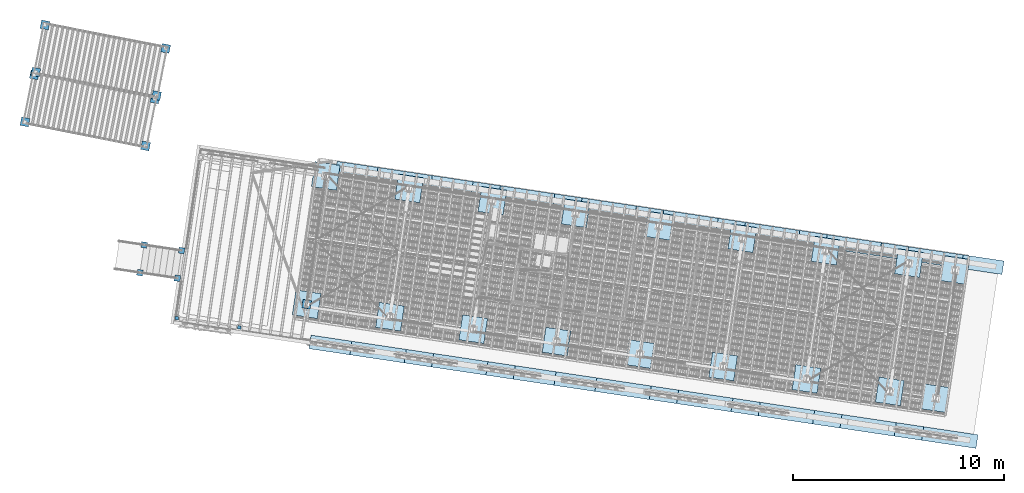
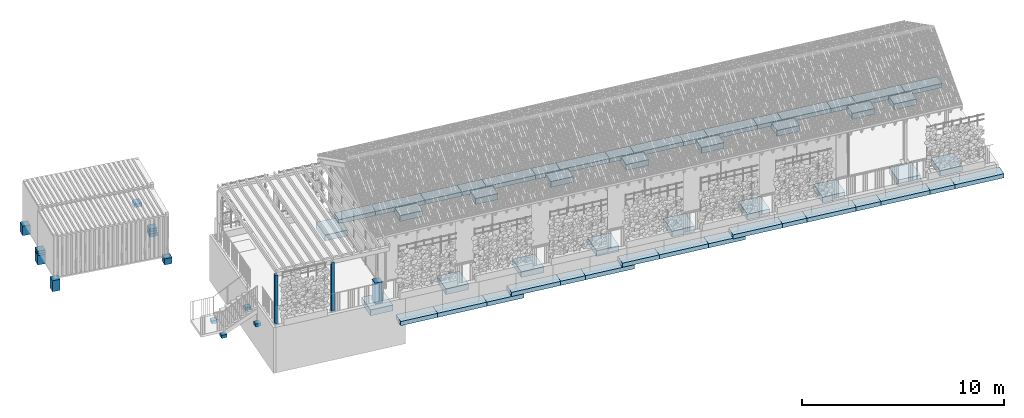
# One storey, part 1 of 128: 62 footings, 3 columns, 5 elements without a shape of their own.
"""IFC4 building model written with IfcOpenShell, lengths in metres."""

from ifc_helpers import new_model, si_unit, direction, frame, origin_with_axes, place, context, subcontext, project, spatial, polyline, rectangle, outline, extrude, material, material_profile, profile_set, profile_usage, type_object, element, aggregate, save


model = new_model("IFC4")

# Units and contexts
model_context = context("Model", 3, precision=1e-05, world=origin_with_axes(), true_north=direction((0.0, 1.0)))
body_context = subcontext(model_context, "Body", "Model", "MODEL_VIEW")
ifc_project = project(units=[si_unit("VOLUMEUNIT", "CUBIC_METRE"), si_unit("LENGTHUNIT", "METRE"), si_unit("AREAUNIT", "SQUARE_METRE")], contexts=[model_context])

# Site, building, storey
site_placement = place(None, origin_with_axes())
site = spatial("IfcSite", under=ifc_project, at=site_placement, Name="Lares · Rua das Mercês · artigo 4771")
building_placement = place(site_placement, frame((15.0, 9.7, 13.9), z_axis=(0.0, 0.0, 1.0), x_axis=(0.989015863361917, -0.147809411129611, 0.0)))
building = spatial("IfcBuilding", under=site, at=building_placement, Name="Casa Sobreposta")
storey_placement = place(building_placement, origin_with_axes())
storey = spatial("IfcBuildingStorey", under=building, at=storey_placement, Name="00 · Habitação e estacionamento", Elevation=13.9)

# Footings
ifc_material_1 = material(Name="Betão armado / Stahlbeton", Category="concrete")
footing_1_placement = place(storey_placement, frame((0.0, 0.0, -1.6), z_axis=(0.0, 0.0, 1.0), x_axis=(1.0, 0.0, 0.0)))
element("IfcFooting", 1, at=footing_1_placement, inside=storey, material=ifc_material_1, Name="Casa térrea · sapata", PredefinedType="PAD_FOOTING", context=body_context, shape_type="SweptSolid", body=[
    extrude(outline(polyline([(0.6, -0.48), (0.6, 0.72), (-0.6, 0.72), (-0.6, -0.48), (0.6, -0.48)])), origin_with_axes(), (0.0, 0.0, 1.0), 0.35),
])
footing_2_placement = place(storey_placement, frame((0.0, 0.0, -1.1), z_axis=(0.0, 0.0, 1.0), x_axis=(1.0, 0.0, 0.0)))
element("IfcFooting", 2, at=footing_2_placement, inside=storey, material=ifc_material_1, Name="Casa térrea · sapata", PredefinedType="PAD_FOOTING", context=body_context, shape_type="SweptSolid", body=[
    extrude(outline(polyline([(0.6, 5.68), (0.6, 6.88), (-0.6, 6.88), (-0.6, 5.68), (0.6, 5.68)])), origin_with_axes(), (0.0, 0.0, 1.0), 0.35),
])
footing_3_placement = place(storey_placement, frame((0.0, 0.0, -1.35), z_axis=(0.0, 0.0, 1.0), x_axis=(1.0, 0.0, 0.0)))
element("IfcFooting", 3, at=footing_3_placement, inside=storey, material=ifc_material_1, Name="Casa térrea · sapata", PredefinedType="PAD_FOOTING", context=body_context, shape_type="SweptSolid", body=[
    extrude(outline(polyline([(4.6, -0.48), (4.6, 0.72), (3.4, 0.72), (3.4, -0.48), (4.6, -0.48)])), origin_with_axes(), (0.0, 0.0, 1.0), 0.35),
])
footing_4_placement = place(storey_placement, frame((0.0, 0.0, -0.95), z_axis=(0.0, 0.0, 1.0), x_axis=(1.0, 0.0, 0.0)))
element("IfcFooting", 4, at=footing_4_placement, inside=storey, material=ifc_material_1, Name="Casa térrea · sapata", PredefinedType="PAD_FOOTING", context=body_context, shape_type="SweptSolid", body=[
    extrude(outline(polyline([(4.6, 5.68), (4.6, 6.88), (3.4, 6.88), (3.4, 5.68), (4.6, 5.68)])), origin_with_axes(), (0.0, 0.0, 1.0), 0.35),
])
footing_5_placement = place(storey_placement, frame((0.0, 0.0, -1.35), z_axis=(0.0, 0.0, 1.0), x_axis=(1.0, 0.0, 0.0)))
element("IfcFooting", 5, at=footing_5_placement, inside=storey, material=ifc_material_1, Name="Casa térrea · sapata", PredefinedType="PAD_FOOTING", context=body_context, shape_type="SweptSolid", body=[
    extrude(outline(polyline([(8.6, -0.48), (8.6, 0.72), (7.4, 0.72), (7.4, -0.48), (8.6, -0.48)])), origin_with_axes(), (0.0, 0.0, 1.0), 0.35),
])
footing_6_placement = place(storey_placement, frame((0.0, 0.0, -0.95), z_axis=(0.0, 0.0, 1.0), x_axis=(1.0, 0.0, 0.0)))
element("IfcFooting", 6, at=footing_6_placement, inside=storey, material=ifc_material_1, Name="Casa térrea · sapata", PredefinedType="PAD_FOOTING", context=body_context, shape_type="SweptSolid", body=[
    extrude(outline(polyline([(8.6, 5.68), (8.6, 6.88), (7.4, 6.88), (7.4, 5.68), (8.6, 5.68)])), origin_with_axes(), (0.0, 0.0, 1.0), 0.35),
])
footing_7_placement = place(storey_placement, frame((0.0, 0.0, -1.1), z_axis=(0.0, 0.0, 1.0), x_axis=(1.0, 0.0, 0.0)))
element("IfcFooting", 7, at=footing_7_placement, inside=storey, material=ifc_material_1, Name="Casa térrea · sapata", PredefinedType="PAD_FOOTING", context=body_context, shape_type="SweptSolid", body=[
    extrude(outline(polyline([(12.6, -0.48), (12.6, 0.72), (11.4, 0.72), (11.4, -0.48), (12.6, -0.48)])), origin_with_axes(), (0.0, 0.0, 1.0), 0.35),
])
footing_8_placement = place(storey_placement, frame((0.0, 0.0, -0.95), z_axis=(0.0, 0.0, 1.0), x_axis=(1.0, 0.0, 0.0)))
element("IfcFooting", 8, at=footing_8_placement, inside=storey, material=ifc_material_1, Name="Casa térrea · sapata", PredefinedType="PAD_FOOTING", context=body_context, shape_type="SweptSolid", body=[
    extrude(outline(polyline([(12.6, 5.68), (12.6, 6.88), (11.4, 6.88), (11.4, 5.68), (12.6, 5.68)])), origin_with_axes(), (0.0, 0.0, 1.0), 0.35),
])
footing_9_placement = place(storey_placement, frame((0.0, 0.0, -0.95), z_axis=(0.0, 0.0, 1.0), x_axis=(1.0, 0.0, 0.0)))
element("IfcFooting", 9, at=footing_9_placement, inside=storey, material=ifc_material_1, Name="Casa térrea · sapata", PredefinedType="PAD_FOOTING", context=body_context, shape_type="SweptSolid", body=[
    extrude(outline(polyline([(16.6, -0.48), (16.6, 0.72), (15.4, 0.72), (15.4, -0.48), (16.6, -0.48)])), origin_with_axes(), (0.0, 0.0, 1.0), 0.35),
])
footing_10_placement = place(storey_placement, frame((0.0, 0.0, -0.95), z_axis=(0.0, 0.0, 1.0), x_axis=(1.0, 0.0, 0.0)))
element("IfcFooting", 10, at=footing_10_placement, inside=storey, material=ifc_material_1, Name="Casa térrea · sapata", PredefinedType="PAD_FOOTING", context=body_context, shape_type="SweptSolid", body=[
    extrude(outline(polyline([(16.6, 5.68), (16.6, 6.88), (15.4, 6.88), (15.4, 5.68), (16.6, 5.68)])), origin_with_axes(), (0.0, 0.0, 1.0), 0.35),
])
footing_11_placement = place(storey_placement, frame((0.0, 0.0, -0.95), z_axis=(0.0, 0.0, 1.0), x_axis=(1.0, 0.0, 0.0)))
element("IfcFooting", 11, at=footing_11_placement, inside=storey, material=ifc_material_1, Name="Casa térrea · sapata", PredefinedType="PAD_FOOTING", context=body_context, shape_type="SweptSolid", body=[
    extrude(outline(polyline([(20.6, -0.48), (20.6, 0.72), (19.4, 0.72), (19.4, -0.48), (20.6, -0.48)])), origin_with_axes(), (0.0, 0.0, 1.0), 0.35),
])
footing_12_placement = place(storey_placement, frame((0.0, 0.0, -0.95), z_axis=(0.0, 0.0, 1.0), x_axis=(1.0, 0.0, 0.0)))
element("IfcFooting", 12, at=footing_12_placement, inside=storey, material=ifc_material_1, Name="Casa térrea · sapata", PredefinedType="PAD_FOOTING", context=body_context, shape_type="SweptSolid", body=[
    extrude(outline(polyline([(20.6, 5.68), (20.6, 6.88), (19.4, 6.88), (19.4, 5.68), (20.6, 5.68)])), origin_with_axes(), (0.0, 0.0, 1.0), 0.35),
])
footing_13_placement = place(storey_placement, frame((0.0, 0.0, -0.95), z_axis=(0.0, 0.0, 1.0), x_axis=(1.0, 0.0, 0.0)))
element("IfcFooting", 13, at=footing_13_placement, inside=storey, material=ifc_material_1, Name="Casa térrea · sapata", PredefinedType="PAD_FOOTING", context=body_context, shape_type="SweptSolid", body=[
    extrude(outline(polyline([(24.6, -0.48), (24.6, 0.72), (23.4, 0.72), (23.4, -0.48), (24.6, -0.48)])), origin_with_axes(), (0.0, 0.0, 1.0), 0.35),
])
footing_14_placement = place(storey_placement, frame((0.0, 0.0, -0.95), z_axis=(0.0, 0.0, 1.0), x_axis=(1.0, 0.0, 0.0)))
element("IfcFooting", 14, at=footing_14_placement, inside=storey, material=ifc_material_1, Name="Casa térrea · sapata", PredefinedType="PAD_FOOTING", context=body_context, shape_type="SweptSolid", body=[
    extrude(outline(polyline([(24.6, 5.68), (24.6, 6.88), (23.4, 6.88), (23.4, 5.68), (24.6, 5.68)])), origin_with_axes(), (0.0, 0.0, 1.0), 0.35),
])
footing_15_placement = place(storey_placement, frame((0.0, 0.0, -0.95), z_axis=(0.0, 0.0, 1.0), x_axis=(1.0, 0.0, 0.0)))
element("IfcFooting", 15, at=footing_15_placement, inside=storey, material=ifc_material_1, Name="Casa térrea · sapata", PredefinedType="PAD_FOOTING", context=body_context, shape_type="SweptSolid", body=[
    extrude(outline(polyline([(28.6, -0.48), (28.6, 0.72), (27.4, 0.72), (27.4, -0.48), (28.6, -0.48)])), origin_with_axes(), (0.0, 0.0, 1.0), 0.35),
])
footing_16_placement = place(storey_placement, frame((0.0, 0.0, -0.95), z_axis=(0.0, 0.0, 1.0), x_axis=(1.0, 0.0, 0.0)))
element("IfcFooting", 16, at=footing_16_placement, inside=storey, material=ifc_material_1, Name="Casa térrea · sapata", PredefinedType="PAD_FOOTING", context=body_context, shape_type="SweptSolid", body=[
    extrude(outline(polyline([(28.6, 5.68), (28.6, 6.88), (27.4, 6.88), (27.4, 5.68), (28.6, 5.68)])), origin_with_axes(), (0.0, 0.0, 1.0), 0.35),
])
footing_17_placement = place(storey_placement, frame((0.0, 0.0, -0.95), z_axis=(0.0, 0.0, 1.0), x_axis=(1.0, 0.0, 0.0)))
element("IfcFooting", 17, at=footing_17_placement, inside=storey, material=ifc_material_1, Name="Casa térrea · sapata", PredefinedType="PAD_FOOTING", context=body_context, shape_type="SweptSolid", body=[
    extrude(outline(polyline([(30.82, -0.48), (30.82, 0.72), (29.62, 0.72), (29.62, -0.48), (30.82, -0.48)])), origin_with_axes(), (0.0, 0.0, 1.0), 0.35),
])
footing_18_placement = place(storey_placement, frame((0.0, 0.0, -0.95), z_axis=(0.0, 0.0, 1.0), x_axis=(1.0, 0.0, 0.0)))
element("IfcFooting", 18, at=footing_18_placement, inside=storey, material=ifc_material_1, Name="Casa térrea · sapata", PredefinedType="PAD_FOOTING", context=body_context, shape_type="SweptSolid", body=[
    extrude(outline(polyline([(30.82, 5.68), (30.82, 6.88), (29.62, 6.88), (29.62, 5.68), (30.82, 5.68)])), origin_with_axes(), (0.0, 0.0, 1.0), 0.35),
])

# Stair, footings
stair_placement = place(storey_placement, origin_with_axes())
stair = element("IfcStair", 19, at=stair_placement, inside=storey, Name="Jardim · escada pela fachada poente", PredefinedType="STRAIGHT_RUN_STAIR")
footing_19_placement = place(stair_placement, frame((0.0, 0.0, -1.29767746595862), z_axis=(0.0, 0.0, 1.0), x_axis=(1.0, 0.0, 0.0)))
footing_19 = element("IfcFooting", 20, at=footing_19_placement, material=ifc_material_1, Name="Jardim · apoio", PredefinedType="PAD_FOOTING", context=body_context, shape_type="SweptSolid", body=[
    extrude(outline(polyline([(-6.11, 0.295), (-6.11, 0.575), (-6.39, 0.575), (-6.39, 0.295), (-6.11, 0.295)])), origin_with_axes(), (0.0, 0.0, 1.0), 0.18),
])
footing_20_placement = place(stair_placement, frame((0.0, 0.0, -1.52), z_axis=(0.0, 0.0, 1.0), x_axis=(1.0, 0.0, 0.0)))
footing_20 = element("IfcFooting", 21, at=footing_20_placement, material=ifc_material_1, Name="Jardim · apoio", PredefinedType="PAD_FOOTING", context=body_context, shape_type="SweptSolid", body=[
    extrude(outline(polyline([(-7.91, 0.295), (-7.91, 0.575), (-8.19, 0.575), (-8.19, 0.295), (-7.91, 0.295)])), origin_with_axes(), (0.0, 0.0, 1.0), 0.18),
])
footing_21_placement = place(stair_placement, frame((0.0, 0.0, -1.18553574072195), z_axis=(0.0, 0.0, 1.0), x_axis=(1.0, 0.0, 0.0)))
footing_21 = element("IfcFooting", 22, at=footing_21_placement, material=ifc_material_1, Name="Jardim · apoio", PredefinedType="PAD_FOOTING", context=body_context, shape_type="SweptSolid", body=[
    extrude(outline(polyline([(-6.11, 1.625), (-6.11, 1.905), (-6.39, 1.905), (-6.39, 1.625), (-6.11, 1.625)])), origin_with_axes(), (0.0, 0.0, 1.0), 0.18),
])
footing_22_placement = place(stair_placement, frame((0.0, 0.0, -1.52), z_axis=(0.0, 0.0, 1.0), x_axis=(1.0, 0.0, 0.0)))
footing_22 = element("IfcFooting", 23, at=footing_22_placement, material=ifc_material_1, Name="Jardim · apoio", PredefinedType="PAD_FOOTING", context=body_context, shape_type="SweptSolid", body=[
    extrude(outline(polyline([(-7.91, 1.625), (-7.91, 1.905), (-8.19, 1.905), (-8.19, 1.625), (-7.91, 1.625)])), origin_with_axes(), (0.0, 0.0, 1.0), 0.18),
])
aggregate(stair, [footing_19, footing_20, footing_21, footing_22])

# Assembly, footings
assembly_1_placement = place(storey_placement, origin_with_axes())
assembly_1 = element("IfcElementAssembly", 24, at=assembly_1_placement, inside=storey, Name="Pódio · terraço, casa térrea e cisterna", ObjectType="CISTERN_PODIUM", PredefinedType="USERDEFINED")
footing_23_placement = place(assembly_1_placement, frame((0.0, 0.0, -1.5), z_axis=(0.0, 0.0, 1.0), x_axis=(1.0, 0.0, 0.0)))
footing_23 = element("IfcFooting", 25, at=footing_23_placement, material=ifc_material_1, Name="Pódio · fundação sul", PredefinedType="STRIP_FOOTING", context=body_context, shape_type="SweptSolid", body=[
    extrude(outline(polyline([(2.7109375, -1.3), (3.0359375, -1.3), (3.0359375, -1.95), (0.75, -1.95), (0.425, -1.95), (0.425, -1.3), (2.7109375, -1.3)])), origin_with_axes(), (0.0, 0.0, 1.0), 0.25),
])
footing_24_placement = place(assembly_1_placement, frame((0.0, 0.0, -1.5), z_axis=(0.0, 0.0, 1.0), x_axis=(1.0, 0.0, 0.0)))
footing_24 = element("IfcFooting", 26, at=footing_24_placement, material=ifc_material_1, Name="Pódio · fundação sul", PredefinedType="STRIP_FOOTING", context=body_context, shape_type="SweptSolid", body=[
    extrude(outline(polyline([(4.671875, -1.3), (4.996875, -1.3), (4.996875, -1.95), (2.7109375, -1.95), (2.3859375, -1.95), (2.3859375, -1.3), (4.671875, -1.3)])), origin_with_axes(), (0.0, 0.0, 1.0), 0.25),
])
footing_25_placement = place(assembly_1_placement, frame((0.0, 0.0, -1.5), z_axis=(0.0, 0.0, 1.0), x_axis=(1.0, 0.0, 0.0)))
footing_25 = element("IfcFooting", 27, at=footing_25_placement, material=ifc_material_1, Name="Pódio · fundação sul", PredefinedType="STRIP_FOOTING", context=body_context, shape_type="SweptSolid", body=[
    extrude(outline(polyline([(6.6328125, -1.3), (6.9578125, -1.3), (6.9578125, -1.95), (4.671875, -1.95), (4.346875, -1.95), (4.346875, -1.3), (6.6328125, -1.3)])), origin_with_axes(), (0.0, 0.0, 1.0), 0.25),
])
footing_26_placement = place(assembly_1_placement, frame((0.0, 0.0, -1.25), z_axis=(0.0, 0.0, 1.0), x_axis=(1.0, 0.0, 0.0)))
footing_26 = element("IfcFooting", 28, at=footing_26_placement, material=ifc_material_1, Name="Pódio · fundação sul", PredefinedType="STRIP_FOOTING", context=body_context, shape_type="SweptSolid", body=[
    extrude(outline(polyline([(8.59375, -1.3), (8.91875, -1.3), (8.91875, -1.95), (6.6328125, -1.95), (6.3078125, -1.95), (6.3078125, -1.3), (8.59375, -1.3)])), origin_with_axes(), (0.0, 0.0, 1.0), 0.25),
])
footing_27_placement = place(assembly_1_placement, frame((0.0, 0.0, -1.25), z_axis=(0.0, 0.0, 1.0), x_axis=(1.0, 0.0, 0.0)))
footing_27 = element("IfcFooting", 29, at=footing_27_placement, material=ifc_material_1, Name="Pódio · fundação sul", PredefinedType="STRIP_FOOTING", context=body_context, shape_type="SweptSolid", body=[
    extrude(outline(polyline([(10.5546875, -1.3), (10.8796875, -1.3), (10.8796875, -1.95), (8.59375, -1.95), (8.26875, -1.95), (8.26875, -1.3), (10.5546875, -1.3)])), origin_with_axes(), (0.0, 0.0, 1.0), 0.25),
])
footing_28_placement = place(assembly_1_placement, frame((0.0, 0.0, -1.25), z_axis=(0.0, 0.0, 1.0), x_axis=(1.0, 0.0, 0.0)))
footing_28 = element("IfcFooting", 30, at=footing_28_placement, material=ifc_material_1, Name="Pódio · fundação sul", PredefinedType="STRIP_FOOTING", context=body_context, shape_type="SweptSolid", body=[
    extrude(outline(polyline([(12.515625, -1.3), (12.840625, -1.3), (12.840625, -1.95), (10.5546875, -1.95), (10.2296875, -1.95), (10.2296875, -1.3), (12.515625, -1.3)])), origin_with_axes(), (0.0, 0.0, 1.0), 0.25),
])
footing_29_placement = place(assembly_1_placement, frame((0.0, 0.0, -1.0), z_axis=(0.0, 0.0, 1.0), x_axis=(1.0, 0.0, 0.0)))
footing_29 = element("IfcFooting", 31, at=footing_29_placement, material=ifc_material_1, Name="Pódio · fundação sul", PredefinedType="STRIP_FOOTING", context=body_context, shape_type="SweptSolid", body=[
    extrude(outline(polyline([(14.4765625, -1.3), (14.8015625, -1.3), (14.8015625, -1.95), (12.515625, -1.95), (12.190625, -1.95), (12.190625, -1.3), (14.4765625, -1.3)])), origin_with_axes(), (0.0, 0.0, 1.0), 0.25),
])
footing_30_placement = place(assembly_1_placement, frame((0.0, 0.0, -1.0), z_axis=(0.0, 0.0, 1.0), x_axis=(1.0, 0.0, 0.0)))
footing_30 = element("IfcFooting", 32, at=footing_30_placement, material=ifc_material_1, Name="Pódio · fundação sul", PredefinedType="STRIP_FOOTING", context=body_context, shape_type="SweptSolid", body=[
    extrude(outline(polyline([(16.4375, -1.3), (16.7625, -1.3), (16.7625, -1.95), (14.4765625, -1.95), (14.1515625, -1.95), (14.1515625, -1.3), (16.4375, -1.3)])), origin_with_axes(), (0.0, 0.0, 1.0), 0.25),
])
footing_31_placement = place(assembly_1_placement, frame((0.0, 0.0, -1.0), z_axis=(0.0, 0.0, 1.0), x_axis=(1.0, 0.0, 0.0)))
footing_31 = element("IfcFooting", 33, at=footing_31_placement, material=ifc_material_1, Name="Pódio · fundação sul", PredefinedType="STRIP_FOOTING", context=body_context, shape_type="SweptSolid", body=[
    extrude(outline(polyline([(18.3984375, -1.3), (18.7234375, -1.3), (18.7234375, -1.95), (16.4375, -1.95), (16.1125, -1.95), (16.1125, -1.3), (18.3984375, -1.3)])), origin_with_axes(), (0.0, 0.0, 1.0), 0.25),
])
footing_32_placement = place(assembly_1_placement, frame((0.0, 0.0, -0.8), z_axis=(0.0, 0.0, 1.0), x_axis=(1.0, 0.0, 0.0)))
footing_32 = element("IfcFooting", 34, at=footing_32_placement, material=ifc_material_1, Name="Pódio · fundação sul", PredefinedType="STRIP_FOOTING", context=body_context, shape_type="SweptSolid", body=[
    extrude(outline(polyline([(20.359375, -1.3), (20.684375, -1.3), (20.684375, -1.95), (18.3984375, -1.95), (18.0734375, -1.95), (18.0734375, -1.3), (20.359375, -1.3)])), origin_with_axes(), (0.0, 0.0, 1.0), 0.25),
])
footing_33_placement = place(assembly_1_placement, frame((0.0, 0.0, -0.8), z_axis=(0.0, 0.0, 1.0), x_axis=(1.0, 0.0, 0.0)))
footing_33 = element("IfcFooting", 35, at=footing_33_placement, material=ifc_material_1, Name="Pódio · fundação sul", PredefinedType="STRIP_FOOTING", context=body_context, shape_type="SweptSolid", body=[
    extrude(outline(polyline([(22.3203125, -1.3), (22.6453125, -1.3), (22.6453125, -1.95), (20.359375, -1.95), (20.034375, -1.95), (20.034375, -1.3), (22.3203125, -1.3)])), origin_with_axes(), (0.0, 0.0, 1.0), 0.25),
])
footing_34_placement = place(assembly_1_placement, frame((0.0, 0.0, -0.8), z_axis=(0.0, 0.0, 1.0), x_axis=(1.0, 0.0, 0.0)))
footing_34 = element("IfcFooting", 36, at=footing_34_placement, material=ifc_material_1, Name="Pódio · fundação sul", PredefinedType="STRIP_FOOTING", context=body_context, shape_type="SweptSolid", body=[
    extrude(outline(polyline([(24.28125, -1.3), (24.60625, -1.3), (24.60625, -1.95), (22.3203125, -1.95), (21.9953125, -1.95), (21.9953125, -1.3), (24.28125, -1.3)])), origin_with_axes(), (0.0, 0.0, 1.0), 0.25),
])
footing_35_placement = place(assembly_1_placement, frame((0.0, 0.0, -0.8), z_axis=(0.0, 0.0, 1.0), x_axis=(1.0, 0.0, 0.0)))
footing_35 = element("IfcFooting", 37, at=footing_35_placement, material=ifc_material_1, Name="Pódio · fundação sul", PredefinedType="STRIP_FOOTING", context=body_context, shape_type="SweptSolid", body=[
    extrude(outline(polyline([(26.2421875, -1.3), (26.5671875, -1.3), (26.5671875, -1.95), (24.28125, -1.95), (23.95625, -1.95), (23.95625, -1.3), (26.2421875, -1.3)])), origin_with_axes(), (0.0, 0.0, 1.0), 0.25),
])
footing_36_placement = place(assembly_1_placement, frame((0.0, 0.0, -0.8), z_axis=(0.0, 0.0, 1.0), x_axis=(1.0, 0.0, 0.0)))
footing_36 = element("IfcFooting", 38, at=footing_36_placement, material=ifc_material_1, Name="Pódio · fundação sul", PredefinedType="STRIP_FOOTING", context=body_context, shape_type="SweptSolid", body=[
    extrude(outline(polyline([(28.203125, -1.3), (28.528125, -1.3), (28.528125, -1.95), (26.2421875, -1.95), (25.9171875, -1.95), (25.9171875, -1.3), (28.203125, -1.3)])), origin_with_axes(), (0.0, 0.0, 1.0), 0.25),
])
footing_37_placement = place(assembly_1_placement, frame((0.0, 0.0, -0.8), z_axis=(0.0, 0.0, 1.0), x_axis=(1.0, 0.0, 0.0)))
footing_37 = element("IfcFooting", 39, at=footing_37_placement, material=ifc_material_1, Name="Pódio · fundação sul", PredefinedType="STRIP_FOOTING", context=body_context, shape_type="SweptSolid", body=[
    extrude(outline(polyline([(30.1640625, -1.3), (30.4890625, -1.3), (30.4890625, -1.95), (28.203125, -1.95), (27.878125, -1.95), (27.878125, -1.3), (30.1640625, -1.3)])), origin_with_axes(), (0.0, 0.0, 1.0), 0.25),
])
footing_38_placement = place(assembly_1_placement, frame((0.0, 0.0, -0.8), z_axis=(0.0, 0.0, 1.0), x_axis=(1.0, 0.0, 0.0)))
footing_38 = element("IfcFooting", 40, at=footing_38_placement, material=ifc_material_1, Name="Pódio · fundação sul", PredefinedType="STRIP_FOOTING", context=body_context, shape_type="SweptSolid", body=[
    extrude(outline(polyline([(32.125, -1.3), (32.45, -1.3), (32.45, -1.95), (30.1640625, -1.95), (29.8390625, -1.95), (29.8390625, -1.3), (32.125, -1.3)])), origin_with_axes(), (0.0, 0.0, 1.0), 0.25),
])
footing_39_placement = place(assembly_1_placement, frame((0.0, 0.0, -0.8), z_axis=(0.0, 0.0, 1.0), x_axis=(1.0, 0.0, 0.0)))
footing_39 = element("IfcFooting", 41, at=footing_39_placement, material=ifc_material_1, Name="Pódio · fundação norte", PredefinedType="STRIP_FOOTING", context=body_context, shape_type="SweptSolid", body=[
    extrude(outline(polyline([(2.7109375, 7.05), (3.0359375, 7.05), (3.0359375, 6.4), (0.75, 6.4), (0.425, 6.4), (0.425, 7.05), (2.7109375, 7.05)])), origin_with_axes(), (0.0, 0.0, 1.0), 0.25),
])
footing_40_placement = place(assembly_1_placement, frame((0.0, 0.0, -0.8), z_axis=(0.0, 0.0, 1.0), x_axis=(1.0, 0.0, 0.0)))
footing_40 = element("IfcFooting", 42, at=footing_40_placement, material=ifc_material_1, Name="Pódio · fundação norte", PredefinedType="STRIP_FOOTING", context=body_context, shape_type="SweptSolid", body=[
    extrude(outline(polyline([(4.671875, 7.05), (4.996875, 7.05), (4.996875, 6.4), (2.7109375, 6.4), (2.3859375, 6.4), (2.3859375, 7.05), (4.671875, 7.05)])), origin_with_axes(), (0.0, 0.0, 1.0), 0.25),
])
footing_41_placement = place(assembly_1_placement, frame((0.0, 0.0, -0.8), z_axis=(0.0, 0.0, 1.0), x_axis=(1.0, 0.0, 0.0)))
footing_41 = element("IfcFooting", 43, at=footing_41_placement, material=ifc_material_1, Name="Pódio · fundação norte", PredefinedType="STRIP_FOOTING", context=body_context, shape_type="SweptSolid", body=[
    extrude(outline(polyline([(6.6328125, 7.05), (6.9578125, 7.05), (6.9578125, 6.4), (4.671875, 6.4), (4.346875, 6.4), (4.346875, 7.05), (6.6328125, 7.05)])), origin_with_axes(), (0.0, 0.0, 1.0), 0.25),
])
footing_42_placement = place(assembly_1_placement, frame((0.0, 0.0, -0.8), z_axis=(0.0, 0.0, 1.0), x_axis=(1.0, 0.0, 0.0)))
footing_42 = element("IfcFooting", 44, at=footing_42_placement, material=ifc_material_1, Name="Pódio · fundação norte", PredefinedType="STRIP_FOOTING", context=body_context, shape_type="SweptSolid", body=[
    extrude(outline(polyline([(8.59375, 7.05), (8.91875, 7.05), (8.91875, 6.4), (6.6328125, 6.4), (6.3078125, 6.4), (6.3078125, 7.05), (8.59375, 7.05)])), origin_with_axes(), (0.0, 0.0, 1.0), 0.25),
])
footing_43_placement = place(assembly_1_placement, frame((0.0, 0.0, -0.8), z_axis=(0.0, 0.0, 1.0), x_axis=(1.0, 0.0, 0.0)))
footing_43 = element("IfcFooting", 45, at=footing_43_placement, material=ifc_material_1, Name="Pódio · fundação norte", PredefinedType="STRIP_FOOTING", context=body_context, shape_type="SweptSolid", body=[
    extrude(outline(polyline([(10.5546875, 7.05), (10.8796875, 7.05), (10.8796875, 6.4), (8.59375, 6.4), (8.26875, 6.4), (8.26875, 7.05), (10.5546875, 7.05)])), origin_with_axes(), (0.0, 0.0, 1.0), 0.25),
])
footing_44_placement = place(assembly_1_placement, frame((0.0, 0.0, -0.8), z_axis=(0.0, 0.0, 1.0), x_axis=(1.0, 0.0, 0.0)))
footing_44 = element("IfcFooting", 46, at=footing_44_placement, material=ifc_material_1, Name="Pódio · fundação norte", PredefinedType="STRIP_FOOTING", context=body_context, shape_type="SweptSolid", body=[
    extrude(outline(polyline([(12.515625, 7.05), (12.840625, 7.05), (12.840625, 6.4), (10.5546875, 6.4), (10.2296875, 6.4), (10.2296875, 7.05), (12.515625, 7.05)])), origin_with_axes(), (0.0, 0.0, 1.0), 0.25),
])
footing_45_placement = place(assembly_1_placement, frame((0.0, 0.0, -0.8), z_axis=(0.0, 0.0, 1.0), x_axis=(1.0, 0.0, 0.0)))
footing_45 = element("IfcFooting", 47, at=footing_45_placement, material=ifc_material_1, Name="Pódio · fundação norte", PredefinedType="STRIP_FOOTING", context=body_context, shape_type="SweptSolid", body=[
    extrude(outline(polyline([(14.4765625, 7.05), (14.8015625, 7.05), (14.8015625, 6.4), (12.515625, 6.4), (12.190625, 6.4), (12.190625, 7.05), (14.4765625, 7.05)])), origin_with_axes(), (0.0, 0.0, 1.0), 0.25),
])
footing_46_placement = place(assembly_1_placement, frame((0.0, 0.0, -0.8), z_axis=(0.0, 0.0, 1.0), x_axis=(1.0, 0.0, 0.0)))
footing_46 = element("IfcFooting", 48, at=footing_46_placement, material=ifc_material_1, Name="Pódio · fundação norte", PredefinedType="STRIP_FOOTING", context=body_context, shape_type="SweptSolid", body=[
    extrude(outline(polyline([(16.4375, 7.05), (16.7625, 7.05), (16.7625, 6.4), (14.4765625, 6.4), (14.1515625, 6.4), (14.1515625, 7.05), (16.4375, 7.05)])), origin_with_axes(), (0.0, 0.0, 1.0), 0.25),
])
footing_47_placement = place(assembly_1_placement, frame((0.0, 0.0, -0.8), z_axis=(0.0, 0.0, 1.0), x_axis=(1.0, 0.0, 0.0)))
footing_47 = element("IfcFooting", 49, at=footing_47_placement, material=ifc_material_1, Name="Pódio · fundação norte", PredefinedType="STRIP_FOOTING", context=body_context, shape_type="SweptSolid", body=[
    extrude(outline(polyline([(18.3984375, 7.05), (18.7234375, 7.05), (18.7234375, 6.4), (16.4375, 6.4), (16.1125, 6.4), (16.1125, 7.05), (18.3984375, 7.05)])), origin_with_axes(), (0.0, 0.0, 1.0), 0.25),
])
footing_48_placement = place(assembly_1_placement, frame((0.0, 0.0, -0.8), z_axis=(0.0, 0.0, 1.0), x_axis=(1.0, 0.0, 0.0)))
footing_48 = element("IfcFooting", 50, at=footing_48_placement, material=ifc_material_1, Name="Pódio · fundação norte", PredefinedType="STRIP_FOOTING", context=body_context, shape_type="SweptSolid", body=[
    extrude(outline(polyline([(20.359375, 7.05), (20.684375, 7.05), (20.684375, 6.4), (18.3984375, 6.4), (18.0734375, 6.4), (18.0734375, 7.05), (20.359375, 7.05)])), origin_with_axes(), (0.0, 0.0, 1.0), 0.25),
])
footing_49_placement = place(assembly_1_placement, frame((0.0, 0.0, -0.8), z_axis=(0.0, 0.0, 1.0), x_axis=(1.0, 0.0, 0.0)))
footing_49 = element("IfcFooting", 51, at=footing_49_placement, material=ifc_material_1, Name="Pódio · fundação norte", PredefinedType="STRIP_FOOTING", context=body_context, shape_type="SweptSolid", body=[
    extrude(outline(polyline([(22.3203125, 7.05), (22.6453125, 7.05), (22.6453125, 6.4), (20.359375, 6.4), (20.034375, 6.4), (20.034375, 7.05), (22.3203125, 7.05)])), origin_with_axes(), (0.0, 0.0, 1.0), 0.25),
])
footing_50_placement = place(assembly_1_placement, frame((0.0, 0.0, -0.8), z_axis=(0.0, 0.0, 1.0), x_axis=(1.0, 0.0, 0.0)))
footing_50 = element("IfcFooting", 52, at=footing_50_placement, material=ifc_material_1, Name="Pódio · fundação norte", PredefinedType="STRIP_FOOTING", context=body_context, shape_type="SweptSolid", body=[
    extrude(outline(polyline([(24.28125, 7.05), (24.60625, 7.05), (24.60625, 6.4), (22.3203125, 6.4), (21.9953125, 6.4), (21.9953125, 7.05), (24.28125, 7.05)])), origin_with_axes(), (0.0, 0.0, 1.0), 0.25),
])
footing_51_placement = place(assembly_1_placement, frame((0.0, 0.0, -0.8), z_axis=(0.0, 0.0, 1.0), x_axis=(1.0, 0.0, 0.0)))
footing_51 = element("IfcFooting", 53, at=footing_51_placement, material=ifc_material_1, Name="Pódio · fundação norte", PredefinedType="STRIP_FOOTING", context=body_context, shape_type="SweptSolid", body=[
    extrude(outline(polyline([(26.2421875, 7.05), (26.5671875, 7.05), (26.5671875, 6.4), (24.28125, 6.4), (23.95625, 6.4), (23.95625, 7.05), (26.2421875, 7.05)])), origin_with_axes(), (0.0, 0.0, 1.0), 0.25),
])
footing_52_placement = place(assembly_1_placement, frame((0.0, 0.0, -0.8), z_axis=(0.0, 0.0, 1.0), x_axis=(1.0, 0.0, 0.0)))
footing_52 = element("IfcFooting", 54, at=footing_52_placement, material=ifc_material_1, Name="Pódio · fundação norte", PredefinedType="STRIP_FOOTING", context=body_context, shape_type="SweptSolid", body=[
    extrude(outline(polyline([(28.203125, 7.05), (28.528125, 7.05), (28.528125, 6.4), (26.2421875, 6.4), (25.9171875, 6.4), (25.9171875, 7.05), (28.203125, 7.05)])), origin_with_axes(), (0.0, 0.0, 1.0), 0.25),
])
footing_53_placement = place(assembly_1_placement, frame((0.0, 0.0, -0.8), z_axis=(0.0, 0.0, 1.0), x_axis=(1.0, 0.0, 0.0)))
footing_53 = element("IfcFooting", 55, at=footing_53_placement, material=ifc_material_1, Name="Pódio · fundação norte", PredefinedType="STRIP_FOOTING", context=body_context, shape_type="SweptSolid", body=[
    extrude(outline(polyline([(30.1640625, 7.05), (30.4890625, 7.05), (30.4890625, 6.4), (28.203125, 6.4), (27.878125, 6.4), (27.878125, 7.05), (30.1640625, 7.05)])), origin_with_axes(), (0.0, 0.0, 1.0), 0.25),
])
footing_54_placement = place(assembly_1_placement, frame((0.0, 0.0, -0.8), z_axis=(0.0, 0.0, 1.0), x_axis=(1.0, 0.0, 0.0)))
footing_54 = element("IfcFooting", 56, at=footing_54_placement, material=ifc_material_1, Name="Pódio · fundação norte", PredefinedType="STRIP_FOOTING", context=body_context, shape_type="SweptSolid", body=[
    extrude(outline(polyline([(32.125, 7.05), (32.45, 7.05), (32.45, 6.4), (30.1640625, 6.4), (29.8390625, 6.4), (29.8390625, 7.05), (32.125, 7.05)])), origin_with_axes(), (0.0, 0.0, 1.0), 0.25),
])
aggregate(assembly_1, [footing_23, footing_24, footing_25, footing_26, footing_27, footing_28, footing_29, footing_30, footing_31, footing_32, footing_33, footing_34, footing_35, footing_36, footing_37, footing_38, footing_39, footing_40, footing_41, footing_42, footing_43, footing_44, footing_45, footing_46, footing_47, footing_48, footing_49, footing_50, footing_51, footing_52, footing_53, footing_54])

assembly_2_placement = place(storey_placement, frame((-14.4335953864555, 9.04888612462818, 0.0), z_axis=(0.0, 0.0, 1.0), x_axis=(0.999032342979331, -0.0439815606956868, 0.0)))
assembly_2 = element("IfcElementAssembly", 57, at=assembly_2_placement, inside=storey, Name="Contentor existente 1 · 6 m", ObjectType="EXISTING_SHIPPING_CONTAINER", PredefinedType="USERDEFINED")
footing_55_placement = place(assembly_2_placement, frame((0.0, 0.0, -0.973680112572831), z_axis=(0.0, 0.0, 1.0), x_axis=(1.0, 0.0, 0.0)))
footing_55 = element("IfcFooting", 58, at=footing_55_placement, material=ifc_material_1, Name="Contentor · apoio existente indicativo", PredefinedType="PAD_FOOTING", context=body_context, shape_type="SweptSolid", body=[
    extrude(outline(polyline([(0.28, -0.12), (0.28, 0.28), (-0.12, 0.28), (-0.12, -0.12), (0.28, -0.12)])), origin_with_axes(), (0.0, 0.0, 1.0), 0.710538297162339),
])
footing_56_placement = place(assembly_2_placement, frame((0.0, 0.0, -0.831266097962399), z_axis=(0.0, 0.0, 1.0), x_axis=(1.0, 0.0, 0.0)))
footing_56 = element("IfcFooting", 59, at=footing_56_placement, material=ifc_material_1, Name="Contentor · apoio existente indicativo", PredefinedType="PAD_FOOTING", context=body_context, shape_type="SweptSolid", body=[
    extrude(outline(polyline([(0.28, 2.16), (0.28, 2.56), (-0.12, 2.56), (-0.12, 2.16), (0.28, 2.16)])), origin_with_axes(), (0.0, 0.0, 1.0), 0.568124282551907),
])
footing_57_placement = place(assembly_2_placement, frame((0.0, 0.0, -0.615488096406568), z_axis=(0.0, 0.0, 1.0), x_axis=(1.0, 0.0, 0.0)))
footing_57 = element("IfcFooting", 60, at=footing_57_placement, material=ifc_material_1, Name="Contentor · apoio existente indicativo", PredefinedType="PAD_FOOTING", context=body_context, shape_type="SweptSolid", body=[
    extrude(outline(polyline([(6.12, -0.12), (6.12, 0.28), (5.72, 0.28), (5.72, -0.12), (6.12, -0.12)])), origin_with_axes(), (0.0, 0.0, 1.0), 0.352346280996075),
])
footing_58_placement = place(assembly_2_placement, frame((0.0, 0.0, -0.472983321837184), z_axis=(0.0, 0.0, 1.0), x_axis=(1.0, 0.0, 0.0)))
footing_58 = element("IfcFooting", 61, at=footing_58_placement, material=ifc_material_1, Name="Contentor · apoio existente indicativo", PredefinedType="PAD_FOOTING", context=body_context, shape_type="SweptSolid", body=[
    extrude(outline(polyline([(6.12, 2.16), (6.12, 2.56), (5.72, 2.56), (5.72, 2.16), (6.12, 2.16)])), origin_with_axes(), (0.0, 0.0, 1.0), 0.209841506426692),
])
aggregate(assembly_2, [footing_55, footing_56, footing_57, footing_58])

assembly_3_placement = place(storey_placement, frame((-14.5932944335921, 6.63122214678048, 0.0), z_axis=(0.0, 0.0, 1.0), x_axis=(0.998832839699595, -0.0483007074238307, 0.0)))
assembly_3 = element("IfcElementAssembly", 62, at=assembly_3_placement, inside=storey, Name="Contentor existente 2 · 6 m", ObjectType="EXISTING_SHIPPING_CONTAINER", PredefinedType="USERDEFINED")
footing_59_placement = place(assembly_3_placement, frame((0.0, 0.0, -1.08544963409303), z_axis=(0.0, 0.0, 1.0), x_axis=(1.0, 0.0, 0.0)))
footing_59 = element("IfcFooting", 63, at=footing_59_placement, material=ifc_material_1, Name="Contentor · apoio existente indicativo", PredefinedType="PAD_FOOTING", context=body_context, shape_type="SweptSolid", body=[
    extrude(outline(polyline([(0.28, -0.12), (0.28, 0.28), (-0.12, 0.28), (-0.12, -0.12), (0.28, -0.12)])), origin_with_axes(), (0.0, 0.0, 1.0), 0.666697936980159),
])
footing_60_placement = place(assembly_3_placement, frame((0.0, 0.0, -0.985264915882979), z_axis=(0.0, 0.0, 1.0), x_axis=(1.0, 0.0, 0.0)))
footing_60 = element("IfcFooting", 64, at=footing_60_placement, material=ifc_material_1, Name="Contentor · apoio existente indicativo", PredefinedType="PAD_FOOTING", context=body_context, shape_type="SweptSolid", body=[
    extrude(outline(polyline([(0.28, 2.16), (0.28, 2.56), (-0.12, 2.56), (-0.12, 2.16), (0.28, 2.16)])), origin_with_axes(), (0.0, 0.0, 1.0), 0.566513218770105),
])
footing_61_placement = place(assembly_3_placement, frame((0.0, 0.0, -0.781977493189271), z_axis=(0.0, 0.0, 1.0), x_axis=(1.0, 0.0, 0.0)))
footing_61 = element("IfcFooting", 65, at=footing_61_placement, material=ifc_material_1, Name="Contentor · apoio existente indicativo", PredefinedType="PAD_FOOTING", context=body_context, shape_type="SweptSolid", body=[
    extrude(outline(polyline([(6.12, -0.12), (6.12, 0.28), (5.72, 0.28), (5.72, -0.12), (6.12, -0.12)])), origin_with_axes(), (0.0, 0.0, 1.0), 0.363225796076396),
])
footing_62_placement = place(assembly_3_placement, frame((0.0, 0.0, -0.62859242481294), z_axis=(0.0, 0.0, 1.0), x_axis=(1.0, 0.0, 0.0)))
footing_62 = element("IfcFooting", 66, at=footing_62_placement, material=ifc_material_1, Name="Contentor · apoio existente indicativo", PredefinedType="PAD_FOOTING", context=body_context, shape_type="SweptSolid", body=[
    extrude(outline(polyline([(6.12, 2.16), (6.12, 2.56), (5.72, 2.56), (5.72, 2.16), (6.12, 2.16)])), origin_with_axes(), (0.0, 0.0, 1.0), 0.209840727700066),
])
aggregate(assembly_3, [footing_59, footing_60, footing_61, footing_62])

# Assembly, columns
assembly_4_placement = place(storey_placement, origin_with_axes())
assembly_4 = element("IfcElementAssembly", 67, at=assembly_4_placement, inside=storey, Name="Pérgola de madeira · pátio 6 m", ObjectType="TIMBER_PATIO_PERGOLA", PredefinedType="USERDEFINED")
ifc_material_2 = material(Name="Madeira / Bauholz", Category="wood")
ifc_material_profile = material_profile(ifc_material_2, rectangle(XDim=0.16, YDim=0.16))
ifc_profile_set = profile_set([ifc_material_profile], Name="TIMBER0.160x0.160")
ifc_profile_usage_1 = profile_usage(ifc_profile_set)
column_type = type_object("IfcColumnType", Name="TIMBER0.160x0.160 / timber", PredefinedType="NOTDEFINED", material=ifc_profile_set)
column_1_placement = place(assembly_4_placement, frame((-6.0, -1.44, -0.015), z_axis=(0.0, 0.0, 1.0), x_axis=(1.0, 0.0, 0.0)))
column_1 = element("IfcColumn", 68, at=column_1_placement, type_object=column_type, material=ifc_profile_usage_1, Name="Pérgola · pilar", context=body_context, shape_type="SweptSolid", body=[
    extrude(rectangle(XDim=0.16, YDim=0.16), origin_with_axes(), (0.0, 0.0, 1.0), 2.935),
])
ifc_profile_usage_2 = profile_usage(ifc_profile_set)
column_2_placement = place(assembly_4_placement, frame((-3.0, -1.44, -0.015), z_axis=(0.0, 0.0, 1.0), x_axis=(1.0, 0.0, 0.0)))
column_2 = element("IfcColumn", 69, at=column_2_placement, type_object=column_type, material=ifc_profile_usage_2, Name="Pérgola · pilar", context=body_context, shape_type="SweptSolid", body=[
    extrude(rectangle(XDim=0.16, YDim=0.16), origin_with_axes(), (0.0, 0.0, 1.0), 2.935),
])
aggregate(assembly_4, [column_1, column_2])

# Column
column_3_placement = place(storey_placement, frame((0.0, 0.0, -1.25), z_axis=(0.0, 0.0, 1.0), x_axis=(1.0, 0.0, 0.0)))
element("IfcColumn", 70, at=column_3_placement, inside=storey, material=ifc_material_1, Name="Casa térrea · pedestal", context=body_context, shape_type="SweptSolid", body=[
    extrude(outline(polyline([(0.2, -0.08), (0.2, 0.32), (-0.2, 0.32), (-0.2, -0.08), (0.2, -0.08)])), origin_with_axes(), (0.0, 0.0, 1.0), 1.25),
])

save(model, "model.ifc")
